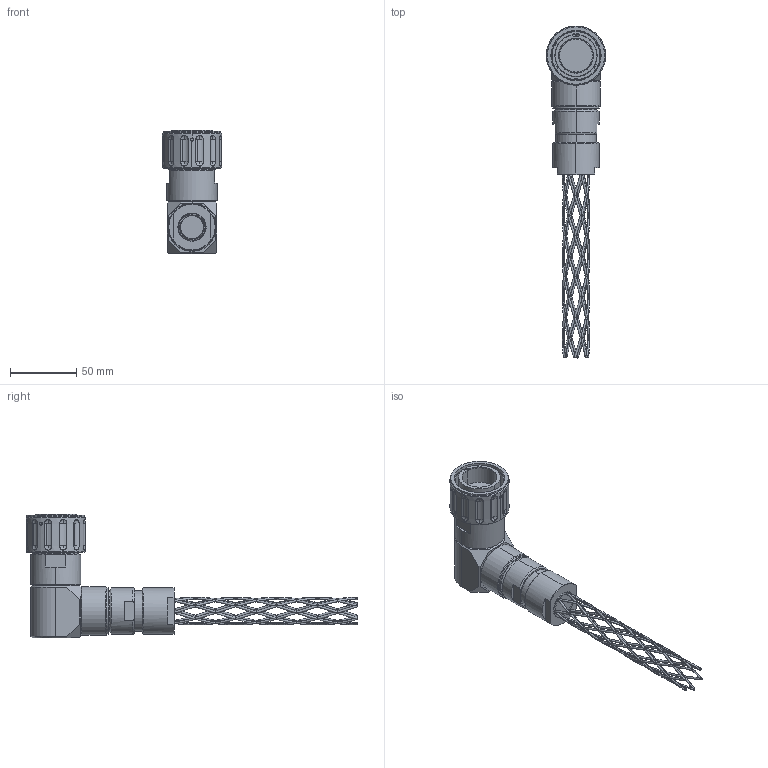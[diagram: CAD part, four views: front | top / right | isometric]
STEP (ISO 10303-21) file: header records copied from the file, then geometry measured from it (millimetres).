
FILE_DESCRIPTION (( 'STEP AP214' ), '1' );
FILE_NAME ('QLINK90-PGBX-21XX-GXXX-RA.STEP', '2025-12-09T16:26:10', ( '' ), ( '' ), 'SwSTEP 2.0', 'SolidWorks 2024', '' );
FILE_SCHEMA (( 'AUTOMOTIVE_DESIGN' ));
Length unit declared in the file: millimetre
Products named in the file (1): QLINK90-PGBX-21XX-GXXX-RA
Bounding box: 44.6 x 250.21 x 93.22 mm (x, y, z)
Volume: 176214.8 mm3; surface area: 40047 mm2
Topology: 5 solids, 7 shells, 563 faces, 1489 edges, 867 vertices
Faces by surface type: bspline 228, cylinder 113, plane 106, cone 55, sphere 48, torus 13
Entity records: 122212 total; most frequent: CARTESIAN_POINT 110740, ORIENTED_EDGE 2978, DIRECTION 1825, EDGE_CURVE 1489, VERTEX_POINT 867, AXIS2_PLACEMENT_3D 759, EDGE_LOOP 608, ADVANCED_FACE 563
